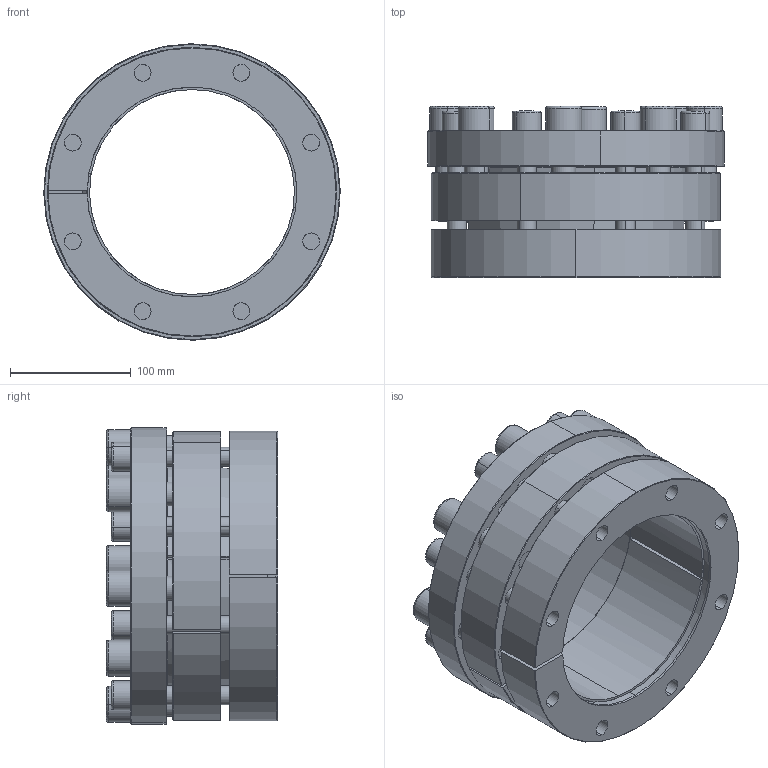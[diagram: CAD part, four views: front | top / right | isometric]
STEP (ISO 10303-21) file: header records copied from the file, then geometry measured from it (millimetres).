
FILE_DESCRIPTION (( 'STEP AP214' ), '1' );
FILE_NAME ('CONEX-P-170x240-P-002.step', '2015-11-30T21:13:42', ( '' ), ( '' ), 'SwSTEP 2.0', 'SolidWorks 2013', '' );
FILE_SCHEMA (( 'AUTOMOTIVE_DESIGN' ));
Length unit declared in the file: millimetre
Products named in the file (1): CONEX-P-170x240-P-002
Bounding box: 245.99 x 142 x 245.99 mm (x, y, z)
Volume: 2811753.2 mm3; surface area: 595208.4 mm2
Topology: 24 solids, 24 shells, 733 faces, 1671 edges, 987 vertices
Faces by surface type: plane 336, cylinder 191, cone 120, torus 86
Entity records: 28735 total; most frequent: DIRECTION 3837, CARTESIAN_POINT 3466, ORIENTED_EDGE 3258, EDGE_CURVE 1629, AXIS2_PLACEMENT_3D 1502, VERTEX_POINT 987, EDGE_LOOP 864, LINE 833
